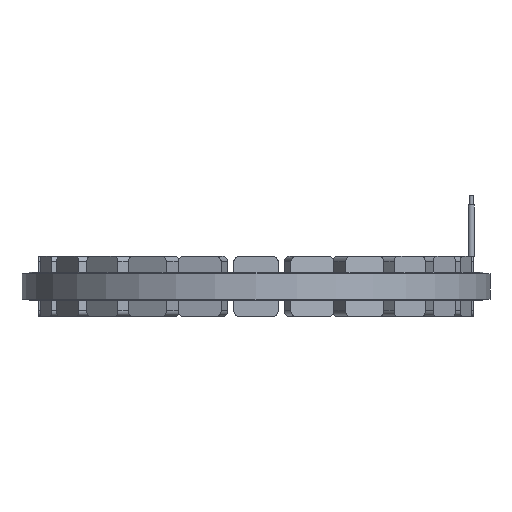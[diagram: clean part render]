
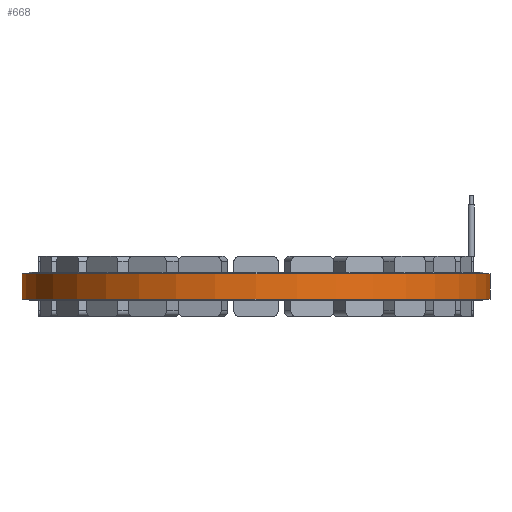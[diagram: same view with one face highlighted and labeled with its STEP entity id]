
A CAD part, front view. The second image highlights one B-rep face of the part: STEP entity #668.
In plain terms, the highlighted cylindrical face has radius 100 mm (diameter 200 mm), a full revolution.
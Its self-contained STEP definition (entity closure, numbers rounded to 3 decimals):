
#668 = ADVANCED_FACE ( 'NONE', ( #3731, #16917 ), #14013, .T. ) ;
#1620 = CARTESIAN_POINT ( 'NONE',  ( 0., 0., 12. ) ) ;
#2305 = CIRCLE ( 'NONE', #13735, 100. ) ;
#2616 = EDGE_CURVE ( 'NONE', #20852, #20852, #2305, .T. ) ;
#2625 = CARTESIAN_POINT ( 'NONE',  ( -100., 0., 0.5 ) ) ;
#3731 = FACE_OUTER_BOUND ( 'NONE', #15956, .T. ) ;
#5791 = CARTESIAN_POINT ( 'NONE',  ( 0., 0., 11.5 ) ) ;
#8310 = DIRECTION ( 'NONE',  ( -1., 0., 0. ) ) ;
#8439 = DIRECTION ( 'NONE',  ( -1., 0., 0. ) ) ;
#11966 = CIRCLE ( 'NONE', #18031, 100. ) ;
#12315 = EDGE_CURVE ( 'NONE', #21415, #21415, #11966, .T. ) ;
#12356 = CARTESIAN_POINT ( 'NONE',  ( 100., 0., 11.5 ) ) ;
#13735 = AXIS2_PLACEMENT_3D ( 'NONE', #5791, #17621, #17514 ) ;
#14013 = CYLINDRICAL_SURFACE ( 'NONE', #17914, 100. ) ;
#14382 = ORIENTED_EDGE ( 'NONE', *, *, #12315, .F. ) ;
#15956 = EDGE_LOOP ( 'NONE', ( #14382 ) ) ;
#16917 = FACE_OUTER_BOUND ( 'NONE', #17727, .T. ) ;
#17346 = ORIENTED_EDGE ( 'NONE', *, *, #2616, .F. ) ;
#17357 = DIRECTION ( 'NONE',  ( 0., 0., -1. ) ) ;
#17514 = DIRECTION ( 'NONE',  ( 1., 0., 0. ) ) ;
#17621 = DIRECTION ( 'NONE',  ( 0., 0., 1. ) ) ;
#17727 = EDGE_LOOP ( 'NONE', ( #17346 ) ) ;
#17914 = AXIS2_PLACEMENT_3D ( 'NONE', #1620, #17357, #8439 ) ;
#18031 = AXIS2_PLACEMENT_3D ( 'NONE', #22045, #21935, #8310 ) ;
#20852 = VERTEX_POINT ( 'NONE', #12356 ) ;
#21415 = VERTEX_POINT ( 'NONE', #2625 ) ;
#21935 = DIRECTION ( 'NONE',  ( 0., 0., -1. ) ) ;
#22045 = CARTESIAN_POINT ( 'NONE',  ( 0., 0., 0.5 ) ) ;
